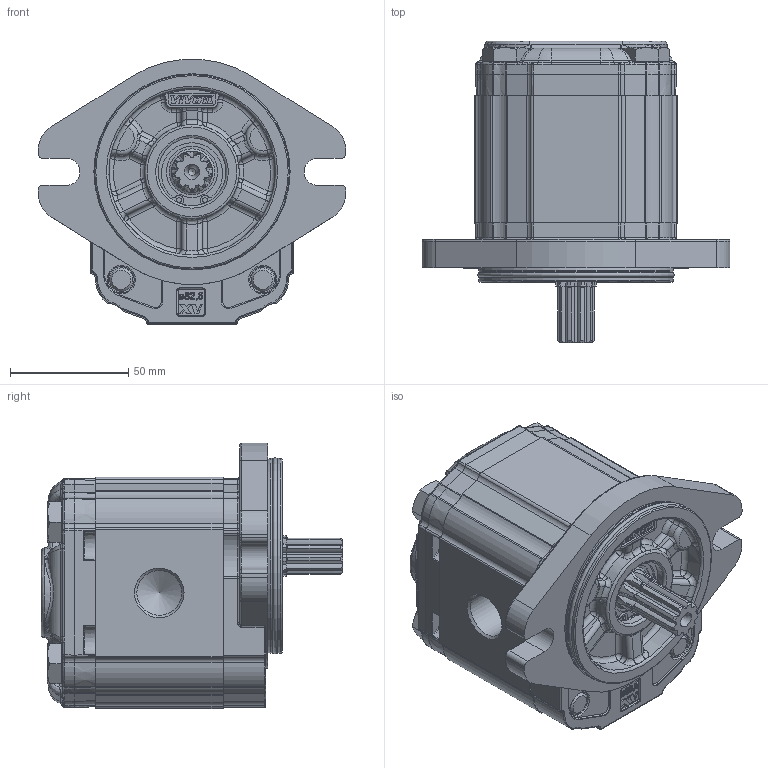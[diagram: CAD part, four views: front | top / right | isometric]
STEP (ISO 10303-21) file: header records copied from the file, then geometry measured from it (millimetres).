
FILE_DESCRIPTION(/* description */ ('Unknown'),/* implementation_level */ '2;1');
FILE_NAME(/* name */ 'X2P4551IBBA',/* time_stamp */ '2020-09-21T11:38:23+02:00',/* author */ ('Unknown'),/* organization */ ('Unknown'),/* preprocessor_version */ 'ST-DEVELOPER v16.7',/* originating_system */ 'DEX',/* authorisation */ $);
FILE_SCHEMA (('AUTOMOTIVE_DESIGN {1 0 10303 214 3 1 1}'));
Products named in the file (5): X2P4551IBBA; X2P51; 2I; X2BBH54; XP219-A
Assembly tree (4 placements, depth 2):
  X2P4551IBBA
    X2P51
    2I
    X2BBH54
    XP219-A
Bounding box: 130.38 x 127.7 x 112.3 mm (x, y, z)
Volume: 720508.5 mm3; surface area: 108125.4 mm2
Topology: 4 solids, 5 shells, 2197 faces, 5415 edges, 3286 vertices
Faces by surface type: cylinder 651, plane 589, bspline 570, torus 246, cone 103, sphere 38
Full cylindrical faces by diameter (mm): 2 x2, 10 x4, 10.5 x6, 11 x2, 16 x4, 17.42 x1, 17.48 x2, 18.631 x1, 18.724 x1, 19 x1, 20.595 x1, 21.741 x1, 25.834 x1, 28.56 x1, 28.57 x1, 28.8 x1, 30.4 x1, 79.6 x2, 82.5 x2
Entity records: 100971 total; most frequent: CARTESIAN_POINT 39086, ORIENTED_EDGE 10476, DIRECTION 8751, EDGE_CURVE 5238, AXIS2_PLACEMENT_3D 3329, VERTEX_POINT 3232, FACE_BOUND 2384, EDGE_LOOP 2380
